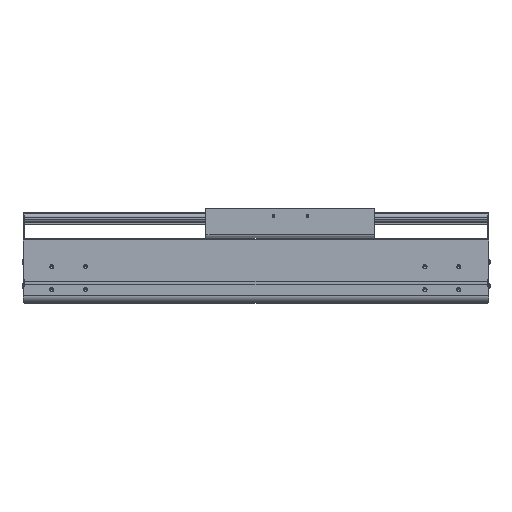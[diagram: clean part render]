
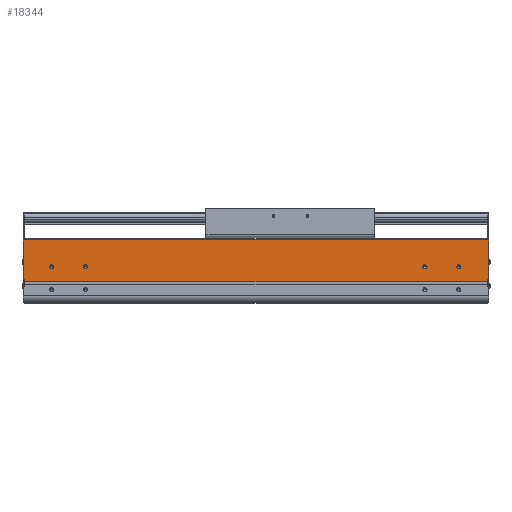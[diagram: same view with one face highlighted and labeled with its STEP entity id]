
A CAD part, top view. The second image highlights one B-rep face of the part: STEP entity #18344.
In plain terms, the highlighted planar face has unit normal (0, 0, 1).
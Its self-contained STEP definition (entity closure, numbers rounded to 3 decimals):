
#4625=DIRECTION('',(-1.,0.,0.));
#4626=VECTOR('',#4625,688.);
#4627=CARTESIAN_POINT('',(2.,93.5,107.));
#4628=LINE('',#4627,#4626);
#4651=CARTESIAN_POINT('',(-42.,54.,107.));
#4652=DIRECTION('',(0.,0.,-1.));
#4653=DIRECTION('',(1.,0.,0.));
#4654=AXIS2_PLACEMENT_3D('',#4651,#4652,#4653);
#4656=CARTESIAN_POINT('',(-42.,54.,107.));
#4657=DIRECTION('',(0.,0.,-1.));
#4658=DIRECTION('',(-1.,0.,0.));
#4659=AXIS2_PLACEMENT_3D('',#4656,#4657,#4658);
#4661=CARTESIAN_POINT('',(-92.,54.,107.));
#4662=DIRECTION('',(0.,0.,-1.));
#4663=DIRECTION('',(1.,0.,0.));
#4664=AXIS2_PLACEMENT_3D('',#4661,#4662,#4663);
#4666=CARTESIAN_POINT('',(-92.,54.,107.));
#4667=DIRECTION('',(0.,0.,-1.));
#4668=DIRECTION('',(-1.,0.,0.));
#4669=AXIS2_PLACEMENT_3D('',#4666,#4667,#4668);
#4671=CARTESIAN_POINT('',(-644.,54.,107.));
#4672=DIRECTION('',(0.,0.,-1.));
#4673=DIRECTION('',(1.,0.,0.));
#4674=AXIS2_PLACEMENT_3D('',#4671,#4672,#4673);
#4676=CARTESIAN_POINT('',(-644.,54.,107.));
#4677=DIRECTION('',(0.,0.,-1.));
#4678=DIRECTION('',(-1.,0.,0.));
#4679=AXIS2_PLACEMENT_3D('',#4676,#4677,#4678);
#4681=CARTESIAN_POINT('',(-594.,54.,107.));
#4682=DIRECTION('',(0.,0.,-1.));
#4683=DIRECTION('',(1.,0.,0.));
#4684=AXIS2_PLACEMENT_3D('',#4681,#4682,#4683);
#4686=CARTESIAN_POINT('',(-594.,54.,107.));
#4687=DIRECTION('',(0.,0.,-1.));
#4688=DIRECTION('',(-1.,0.,0.));
#4689=AXIS2_PLACEMENT_3D('',#4686,#4687,#4688);
#4691=DIRECTION('',(0.,-1.,0.));
#4692=VECTOR('',#4691,2.55);
#4693=CARTESIAN_POINT('',(-684.,34.65,107.));
#4694=LINE('',#4693,#4692);
#4695=DIRECTION('',(0.,-1.,0.));
#4696=VECTOR('',#4695,58.85);
#4697=CARTESIAN_POINT('',(-686.,93.5,107.));
#4698=LINE('',#4697,#4696);
#4699=DIRECTION('',(0.,1.,0.));
#4700=VECTOR('',#4699,58.85);
#4701=CARTESIAN_POINT('',(2.,34.65,107.));
#4702=LINE('',#4701,#4700);
#4703=DIRECTION('',(0.,1.,0.));
#4704=VECTOR('',#4703,2.55);
#4705=CARTESIAN_POINT('',(0.,32.1,107.));
#4706=LINE('',#4705,#4704);
#4815=DIRECTION('',(1.,0.,0.));
#4816=VECTOR('',#4815,2.);
#4817=CARTESIAN_POINT('',(-686.,34.65,107.));
#4818=LINE('',#4817,#4816);
#4927=DIRECTION('',(1.,0.,0.));
#4928=VECTOR('',#4927,684.);
#4929=CARTESIAN_POINT('',(-684.,32.1,107.));
#4930=LINE('',#4929,#4928);
#4943=DIRECTION('',(1.,0.,0.));
#4944=VECTOR('',#4943,2.);
#4945=CARTESIAN_POINT('',(0.,34.65,107.));
#4946=LINE('',#4945,#4944);
#9749=CARTESIAN_POINT('',(-686.,34.65,107.));
#9750=VERTEX_POINT('',#9749);
#9751=CARTESIAN_POINT('',(-686.,93.5,107.));
#9752=VERTEX_POINT('',#9751);
#9981=CARTESIAN_POINT('',(-684.,32.1,107.));
#9982=VERTEX_POINT('',#9981);
#10077=CARTESIAN_POINT('',(0.,32.1,107.));
#10078=VERTEX_POINT('',#10077);
#10349=CARTESIAN_POINT('',(-39.5,54.,107.));
#10350=CARTESIAN_POINT('',(-44.5,54.,107.));
#10351=VERTEX_POINT('',#10349);
#10352=VERTEX_POINT('',#10350);
#10353=CARTESIAN_POINT('',(-89.5,54.,107.));
#10354=CARTESIAN_POINT('',(-94.5,54.,107.));
#10355=VERTEX_POINT('',#10353);
#10356=VERTEX_POINT('',#10354);
#10357=CARTESIAN_POINT('',(-641.5,54.,107.));
#10358=CARTESIAN_POINT('',(-646.5,54.,107.));
#10359=VERTEX_POINT('',#10357);
#10360=VERTEX_POINT('',#10358);
#10361=CARTESIAN_POINT('',(-591.5,54.,107.));
#10362=CARTESIAN_POINT('',(-596.5,54.,107.));
#10363=VERTEX_POINT('',#10361);
#10364=VERTEX_POINT('',#10362);
#11282=CARTESIAN_POINT('',(2.,34.65,107.));
#11283=VERTEX_POINT('',#11282);
#11284=CARTESIAN_POINT('',(2.,93.5,107.));
#11285=VERTEX_POINT('',#11284);
#11506=CARTESIAN_POINT('',(0.,34.65,107.));
#11507=VERTEX_POINT('',#11506);
#11818=CARTESIAN_POINT('',(-684.,34.65,107.));
#11819=VERTEX_POINT('',#11818);
#18302=CARTESIAN_POINT('',(-342.,62.8,107.));
#18303=DIRECTION('',(0.,0.,1.));
#18304=DIRECTION('',(0.,-1.,0.));
#18305=AXIS2_PLACEMENT_3D('',#18302,#18303,#18304);
#18306=PLANE('',#18305);
#18307=ORIENTED_EDGE('',*,*,#12817,.F.);
#18309=ORIENTED_EDGE('',*,*,#18308,.F.);
#18310=ORIENTED_EDGE('',*,*,#13430,.F.);
#18311=ORIENTED_EDGE('',*,*,#18288,.F.);
#18312=ORIENTED_EDGE('',*,*,#12554,.F.);
#18314=ORIENTED_EDGE('',*,*,#18313,.F.);
#18315=ORIENTED_EDGE('',*,*,#14114,.F.);
#18317=ORIENTED_EDGE('',*,*,#18316,.F.);
#18318=EDGE_LOOP('',(#18307,#18309,#18310,#18311,#18312,#18314,#18315,#18317));
#18319=FACE_OUTER_BOUND('',#18318,.F.);
#18321=ORIENTED_EDGE('',*,*,#18320,.F.);
#18323=ORIENTED_EDGE('',*,*,#18322,.F.);
#18324=EDGE_LOOP('',(#18321,#18323));
#18325=FACE_BOUND('',#18324,.F.);
#18327=ORIENTED_EDGE('',*,*,#18326,.F.);
#18329=ORIENTED_EDGE('',*,*,#18328,.F.);
#18330=EDGE_LOOP('',(#18327,#18329));
#18331=FACE_BOUND('',#18330,.F.);
#18333=ORIENTED_EDGE('',*,*,#18332,.F.);
#18335=ORIENTED_EDGE('',*,*,#18334,.F.);
#18336=EDGE_LOOP('',(#18333,#18335));
#18337=FACE_BOUND('',#18336,.F.);
#18339=ORIENTED_EDGE('',*,*,#18338,.F.);
#18341=ORIENTED_EDGE('',*,*,#18340,.F.);
#18342=EDGE_LOOP('',(#18339,#18341));
#18343=FACE_BOUND('',#18342,.F.);
#18344=ADVANCED_FACE('',(#18319,#18325,#18331,#18337,#18343),#18306,.T.);
#4655=CIRCLE('',#4654,2.5);
#4660=CIRCLE('',#4659,2.5);
#4665=CIRCLE('',#4664,2.5);
#4670=CIRCLE('',#4669,2.5);
#4675=CIRCLE('',#4674,2.5);
#4680=CIRCLE('',#4679,2.5);
#4685=CIRCLE('',#4684,2.5);
#4690=CIRCLE('',#4689,2.5);
#12554=EDGE_CURVE('',#11283,#11285,#4702,.T.);
#12817=EDGE_CURVE('',#11819,#9982,#4694,.T.);
#13430=EDGE_CURVE('',#9752,#9750,#4698,.T.);
#14114=EDGE_CURVE('',#10078,#11507,#4706,.T.);
#18288=EDGE_CURVE('',#11285,#9752,#4628,.T.);
#18308=EDGE_CURVE('',#9750,#11819,#4818,.T.);
#18313=EDGE_CURVE('',#11507,#11283,#4946,.T.);
#18316=EDGE_CURVE('',#9982,#10078,#4930,.T.);
#18320=EDGE_CURVE('',#10355,#10356,#4665,.T.);
#18322=EDGE_CURVE('',#10356,#10355,#4670,.T.);
#18326=EDGE_CURVE('',#10359,#10360,#4675,.T.);
#18328=EDGE_CURVE('',#10360,#10359,#4680,.T.);
#18332=EDGE_CURVE('',#10363,#10364,#4685,.T.);
#18334=EDGE_CURVE('',#10364,#10363,#4690,.T.);
#18338=EDGE_CURVE('',#10351,#10352,#4655,.T.);
#18340=EDGE_CURVE('',#10352,#10351,#4660,.T.);
